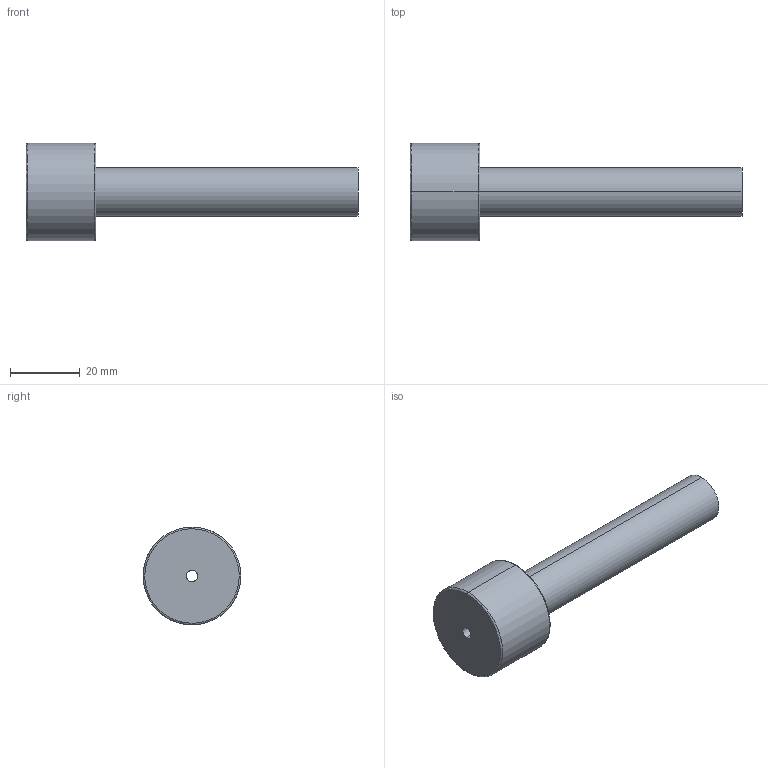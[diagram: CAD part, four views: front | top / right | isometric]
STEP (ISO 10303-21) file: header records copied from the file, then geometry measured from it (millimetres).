
FILE_DESCRIPTION(('CATIA V5 STEP Exchange'),'2;1');
FILE_NAME('C:\Users\Utente\Desktop\IO LAVORO\3D X SITO CF\X SITO\PLASTICA\3D files 367\367-14X95.stp','2021-03-24T15:13:26+00:00',('none'),('none'),'CATIA Version 5 Release 20 GA (IN-10)','CATIA V5 STEP AP203','none');
FILE_SCHEMA(('CONFIG_CONTROL_DESIGN'));
Length unit declared in the file: millimetre
Products named in the file (1): 367-14X95
Bounding box: 95 x 28 x 28 mm (x, y, z)
Volume: 21197.8 mm3; surface area: 7917.1 mm2
Topology: 1 solids, 1 shells, 13 faces, 42 edges, 32 vertices
Faces by surface type: torus 4, cylinder 4, plane 3, cone 2
Entity records: 608 total; most frequent: CARTESIAN_POINT 194, ORIENTED_EDGE 84, DIRECTION 60, AXIS2_PLACEMENT_3D 42, EDGE_CURVE 42, VERTEX_POINT 32, CIRCLE 28, EDGE_LOOP 16
